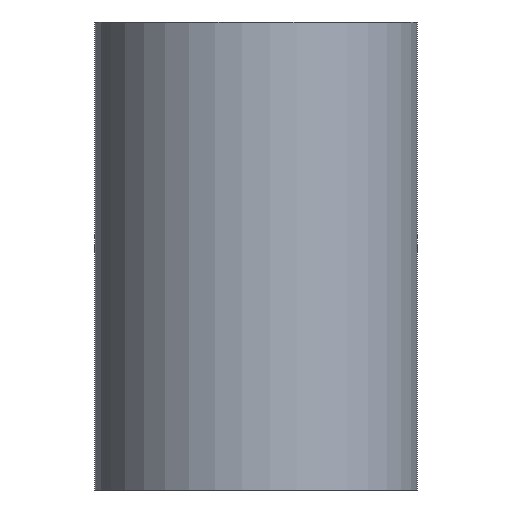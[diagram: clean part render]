
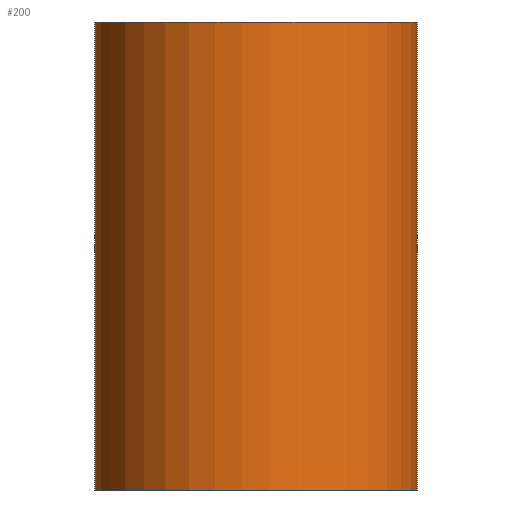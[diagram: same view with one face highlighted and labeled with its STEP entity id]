
A CAD part, left-side view. The second image highlights one B-rep face of the part: STEP entity #200.
In plain terms, the highlighted cylindrical face has radius 20 mm (diameter 40 mm), a partial arc.
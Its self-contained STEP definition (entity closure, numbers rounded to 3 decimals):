
#32=CYLINDRICAL_SURFACE('',#288,20.);
#36=CIRCLE('',#283,20.);
#38=CIRCLE('',#287,20.);
#48=FACE_OUTER_BOUND('',#60,.T.);
#60=EDGE_LOOP('',(#159,#160,#161,#162));
#70=LINE('',#378,#86);
#72=LINE('',#384,#88);
#86=VECTOR('',#311,10.);
#88=VECTOR('',#315,10.);
#100=VERTEX_POINT('',#372);
#102=VERTEX_POINT('',#376);
#103=VERTEX_POINT('',#380);
#105=VERTEX_POINT('',#383);
#118=EDGE_CURVE('',#100,#102,#70,.T.);
#120=EDGE_CURVE('',#105,#103,#72,.T.);
#124=EDGE_CURVE('',#105,#102,#36,.T.);
#126=EDGE_CURVE('',#100,#103,#38,.T.);
#159=ORIENTED_EDGE('',*,*,#118,.T.);
#160=ORIENTED_EDGE('',*,*,#124,.F.);
#161=ORIENTED_EDGE('',*,*,#120,.T.);
#162=ORIENTED_EDGE('',*,*,#126,.F.);
#200=ADVANCED_FACE('',(#48),#32,.T.);
#283=AXIS2_PLACEMENT_3D('',#390,#322,#323);
#287=AXIS2_PLACEMENT_3D('',#394,#330,#331);
#288=AXIS2_PLACEMENT_3D('',#395,#332,#333);
#311=DIRECTION('',(0.,0.,1.));
#315=DIRECTION('',(0.,0.,-1.));
#322=DIRECTION('center_axis',(0.,0.,1.));
#323=DIRECTION('ref_axis',(1.,0.,0.));
#330=DIRECTION('center_axis',(0.,0.,-1.));
#331=DIRECTION('ref_axis',(1.,0.,0.));
#332=DIRECTION('center_axis',(0.,0.,1.));
#333=DIRECTION('ref_axis',(-1.,0.,0.));
#372=CARTESIAN_POINT('',(17.691,-9.329,-29.));
#376=CARTESIAN_POINT('',(17.691,-9.329,29.));
#378=CARTESIAN_POINT('',(17.691,-9.329,0.));
#380=CARTESIAN_POINT('',(17.691,9.329,-29.));
#383=CARTESIAN_POINT('',(17.691,9.329,29.));
#384=CARTESIAN_POINT('',(17.691,9.329,0.));
#390=CARTESIAN_POINT('Origin',(0.,0.,29.));
#394=CARTESIAN_POINT('Origin',(0.,0.,-29.));
#395=CARTESIAN_POINT('Origin',(0.,0.,0.));
